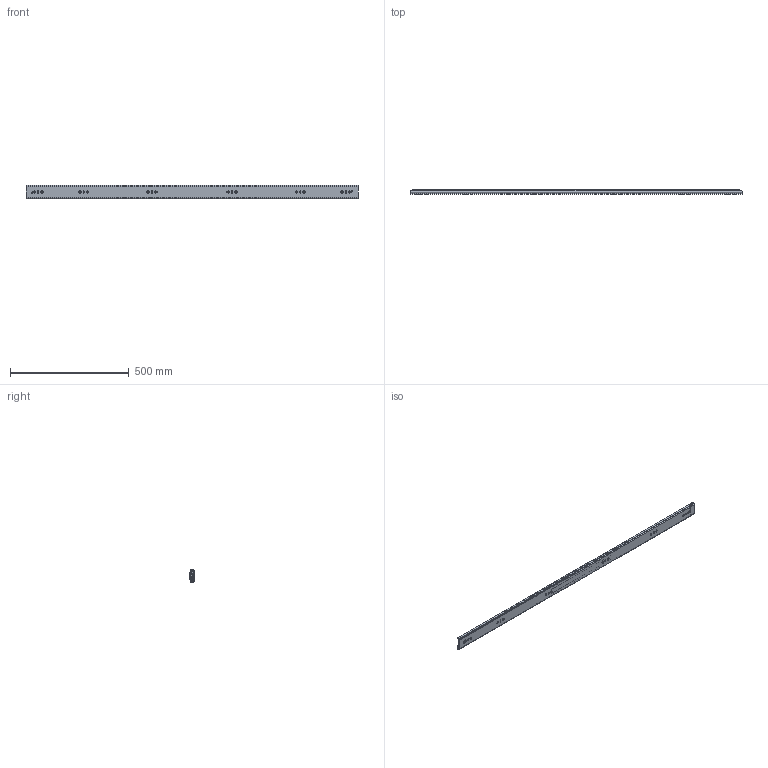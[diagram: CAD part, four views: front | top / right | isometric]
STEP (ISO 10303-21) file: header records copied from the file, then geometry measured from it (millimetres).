
FILE_DESCRIPTION((''),'2;1');
FILE_NAME('1057-C-56_ASM','2025-10-24T',('蔽翩'),(''),'CREO PARAMETRIC BY PTC INC, 2018220','CREO PARAMETRIC BY PTC INC, 2018220','');
FILE_SCHEMA(('CONFIG_CONTROL_DESIGN'));
Products named in the file (21): KP-57-01WEIKE-31______________; MAODING-WAI______________; 1057DAZHUJIA-20GE111; 1057ZHUJIADANWEIJIAO1234_; 1057-5-6GANZHU1______________; 1057DAZHUJIA-20GE_12______ASM; 1057-C-20-KE_______________ASM; KP-57-01ZHONGGUI-36______; PEIJIAN-22______________; ZHUANJIAO112______________; LIUJIAO-DING11______________; MAODING-P______________; 1057-XIAOJIAOLUN56; PEIJIAN-ZHONG_______________ASM; 1057XIAOZHUJIA___2011__; 1057XIAOZHUJIA-20GE11___ASM; KP-57-01ZHONGGUI-36_______ASM; KP-57-01NEIGUI-242; XIN-JIAOGUAN56; KP-57-01NEIGUI-242_ASM; 1057-C-56_ASM
Assembly tree (227 placements, depth 4):
  1057-C-56_ASM
    1057-C-20-KE_______________ASM
      KP-57-01WEIKE-31______________
      MAODING-WAI______________  x2
      1057DAZHUJIA-20GE_12______ASM
        1057DAZHUJIA-20GE111
        1057ZHUJIADANWEIJIAO1234_  x2
        1057-5-6GANZHU1______________  x100
    KP-57-01ZHONGGUI-36_______ASM
      KP-57-01ZHONGGUI-36______
      PEIJIAN-ZHONG_______________ASM  x2
        PEIJIAN-22______________
        ZHUANJIAO112______________
        LIUJIAO-DING11______________
        MAODING-P______________
        1057-XIAOJIAOLUN56
      MAODING-WAI______________  x2
      1057XIAOZHUJIA-20GE11___ASM
        1057XIAOZHUJIA___2011__
        1057-5-6GANZHU1______________  x100
        1057ZHUJIADANWEIJIAO1234_  x2
    KP-57-01NEIGUI-242_ASM
      KP-57-01NEIGUI-242
      XIN-JIAOGUAN56  x2
Bounding box: 1400 x 19.8 x 57.67 mm (x, y, z)
Volume: 610354.3 mm3; surface area: 712852.6 mm2
Topology: 225 solids, 225 shells, 5474 faces, 15242 edges, 9412 vertices
Faces by surface type: plane 2448, cylinder 2248, sphere 406, bspline 154, cone 114, torus 96, extrusion 8
Entity records: 158649 total; most frequent: CARTESIAN_POINT 32983, DIRECTION 26776, ORIENTED_EDGE 26030, EDGE_CURVE 13015, AXIS2_PLACEMENT_3D 9228, VERTEX_POINT 8370, VECTOR 8320, LINE 8316
